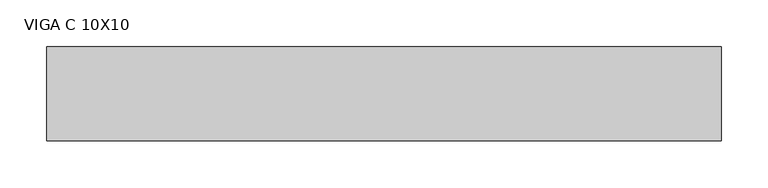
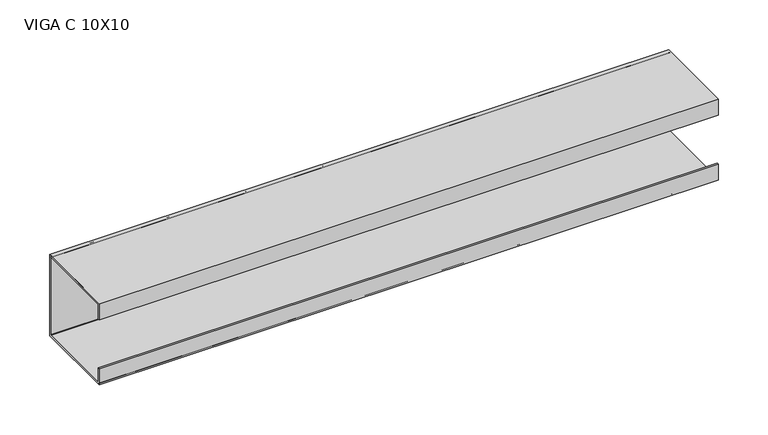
"""IFC4 building model written with IfcOpenShell, lengths in millimetres: beam geometry, VIGA PERFIL C AÇO : VIGA C 10X10."""

from ifc_helpers import new_model, si_unit, point, frame, frame_2d, origin, place, context, project, spatial, polyline, circle_curve, trimmed, segment, composite_curve, outline, extrude, source, transform, mapped, element, save


def viga_c_10x10_99a8d166(model_context):
    return source(origin(), model_context, "Body", "SweptSolid", [
        extrude(outline(polyline([(9.2, -50.0), (-90.8, -50.0), (-90.8, -30.0), (-88.9, -30.0), (-88.9, -48.1), (7.3, -48.1), (7.3, 48.1), (-88.9, 48.1), (-88.9, 30.0), (-90.8, 30.0), (-90.8, 50.0), (9.2, 50.0), (9.2, -50.0)])), frame((-328.0, 0.0, 0.0), z_axis=(1.0, 0.0, 0.0), x_axis=(0.0, 1.0, 0.0)), (0.0, 0.0, 1.0), 719.0),
        extrude(outline(composite_curve([segment(trimmed(circle_curve(frame_2d((5.4, -46.2)), 3.8), [point((9.2, -46.2))], [point((5.4, -50.0))], False, "CARTESIAN"), True, "CONTINUOUS"), segment(polyline([(5.4, -50.0), (-87.0, -50.0)]), True, "CONTINUOUS"), segment(trimmed(circle_curve(frame_2d((-87.0, -46.2)), 3.8), [point((-87.0, -50.0))], [point((-90.8, -46.2))], False, "CARTESIAN"), True, "CONTINUOUS"), segment(polyline([(-90.8, -46.2), (-90.8, -30.0), (-88.9, -30.0), (-88.9, -46.2)]), True, "CONTINUOUS"), segment(trimmed(circle_curve(frame_2d((-87.0, -46.2)), 1.9), [point((-88.9, -46.2))], [point((-87.0, -48.1))], True, "CARTESIAN"), True, "CONTINUOUS"), segment(polyline([(-87.0, -48.1), (5.4, -48.1)]), True, "CONTINUOUS"), segment(trimmed(circle_curve(frame_2d((5.4, -46.2)), 1.9), [point((5.4, -48.1))], [point((7.3, -46.2))], True, "CARTESIAN"), True, "CONTINUOUS"), segment(polyline([(7.3, -46.2), (7.3, 46.2)]), True, "CONTINUOUS"), segment(trimmed(circle_curve(frame_2d((5.4, 46.2)), 1.9), [point((7.3, 46.2))], [point((5.4, 48.1))], True, "CARTESIAN"), True, "CONTINUOUS"), segment(polyline([(5.4, 48.1), (-87.0, 48.1)]), True, "CONTINUOUS"), segment(trimmed(circle_curve(frame_2d((-87.0, 46.2)), 1.9), [point((-87.0, 48.1))], [point((-88.9, 46.2))], True, "CARTESIAN"), True, "CONTINUOUS"), segment(polyline([(-88.9, 46.2), (-88.9, 30.0), (-90.8, 30.0), (-90.8, 46.2)]), True, "CONTINUOUS"), segment(trimmed(circle_curve(frame_2d((-87.0, 46.2)), 3.8), [point((-90.8, 46.2))], [point((-87.0, 50.0))], False, "CARTESIAN"), True, "CONTINUOUS"), segment(polyline([(-87.0, 50.0), (5.4, 50.0)]), True, "CONTINUOUS"), segment(trimmed(circle_curve(frame_2d((5.4, 46.2)), 3.8), [point((5.4, 50.0))], [point((9.2, 46.2))], False, "CARTESIAN"), True, "CONTINUOUS"), segment(polyline([(9.2, 46.2), (9.2, -46.2)]), True, "CONTINUOUS")], self_intersect=False)), frame((-328.0, 0.0, 0.0), z_axis=(1.0, 0.0, 0.0), x_axis=(0.0, 1.0, 0.0)), (0.0, 0.0, 1.0), 719.0),
    ])


if __name__ == "__main__":
    model = new_model("IFC4")
    model_context = context("Model", 3, world=origin())
    ifc_project = project(units=[si_unit("LENGTHUNIT", "METRE", prefix="MILLI")], contexts=[model_context])
    site = spatial("IfcSite", under=ifc_project)
    building = spatial("IfcBuilding", under=site)
    placement = place(None, origin())
    viga_c_10x10_shape = viga_c_10x10_99a8d166(model_context)
    element("IfcBeam", 1, ObjectType="VIGA PERFIL C AÇO : VIGA C 10X10", at=placement, inside=building, context=model_context, shape_type="MappedRepresentation", body=[
        mapped(viga_c_10x10_shape, transform((0.0, 0.0, 0.0), x_axis=(1.0, 0.0, 0.0), y_axis=(0.0, 1.0, 0.0), z_axis=(0.0, 0.0, 1.0))),
    ])
    save(model, "model.ifc")
